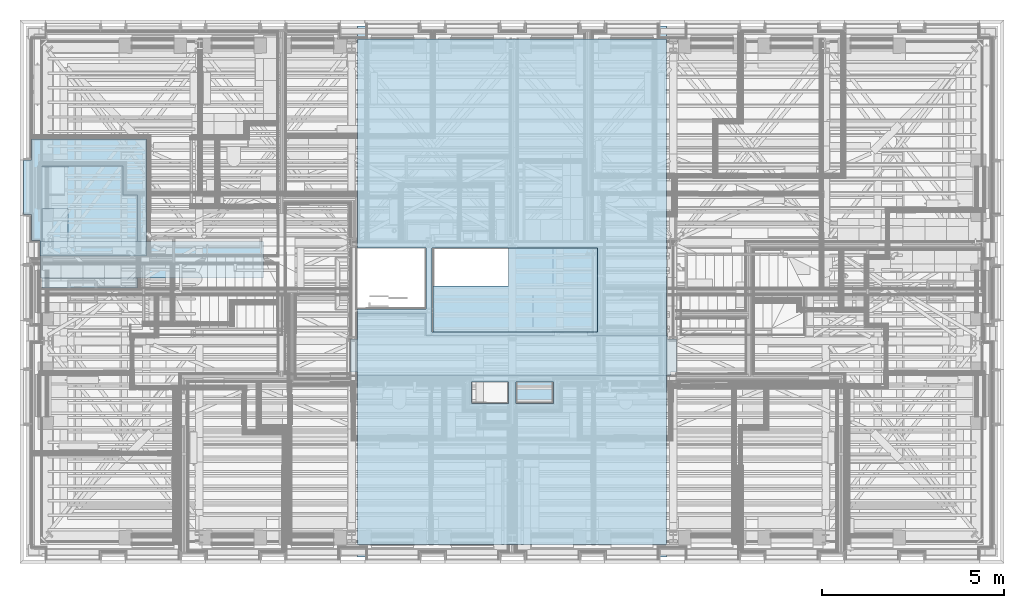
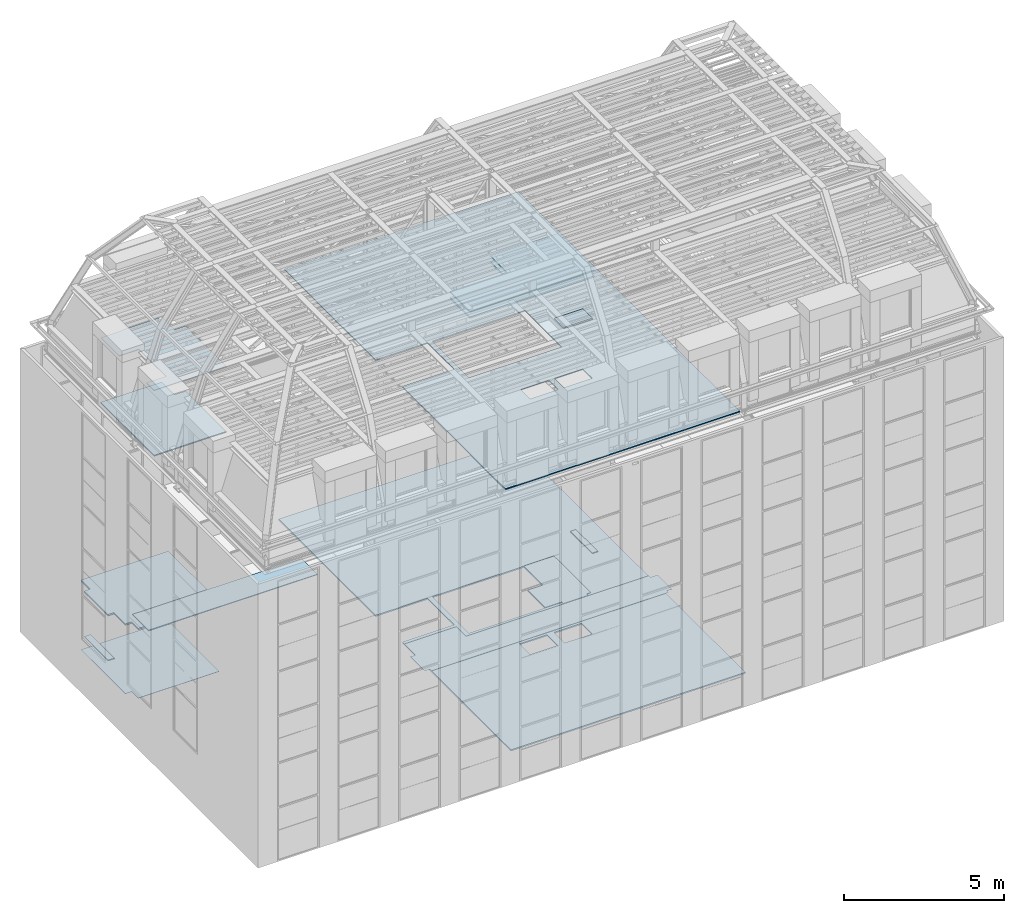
# One storey, part 86 of 183: 23 slabs.
"""IFC2X3 building model written with IfcOpenShell, lengths in metres."""

import ifcopenshell
import ifcopenshell.guid

model = None  # the IFC model being written
_history = None  # IfcOwnerHistory: only IFC2X3 demands one
_inside = {}  # id of a spatial element -> (the spatial element, [elements in it])
_under = {}  # id of a project, library or spatial element -> (it, [spatial elements below it])
_declared = {}  # id of a project -> (the project, [libraries it declares])
_typed = {}  # id of a type object -> (the type object, [elements of that type])
_made_of = {}  # id of a material, layer set ... -> (it, [elements and type objects made of it])


def new_model(schema):
    """Start an empty IFC model of exactly this schema.

    Asked for "IFC4X3", IfcOpenShell would pick the latest addendum, in which some entities
    have other attributes; the version numbers below select the first issue.
    IFC2X3 requires an IfcOwnerHistory on every rooted entity: one is made here for all.
    """
    global model, _history
    if schema == "IFC4X3":
        model = ifcopenshell.file(schema_version=(4, 3, 0, 0))
    else:
        model = ifcopenshell.file(schema=schema)
    _inside.clear()
    _under.clear()
    _declared.clear()
    _typed.clear()
    _made_of.clear()
    _history = None
    if model.schema == "IFC2X3":
        org = make("IfcOrganization", Name="unknown")
        user = make(
            "IfcPersonAndOrganization",
            ThePerson=make("IfcPerson", FamilyName="unknown"),
            TheOrganization=org,
        )
        app = make(
            "IfcApplication",
            ApplicationDeveloper=org,
            Version="unknown",
            ApplicationFullName="unknown",
            ApplicationIdentifier="unknown",
        )
        _history = make(
            "IfcOwnerHistory",
            OwningUser=user,
            OwningApplication=app,
            ChangeAction="ADDED",
            CreationDate=0,
        )
    return model


def make(cls, **values):
    """One entity of the class cls with the attributes given. An attribute that is None is left unset."""
    return model.create_entity(
        cls, **{name: value for name, value in values.items() if value is not None}
    )


def entity(cls, *values):
    """Any entity or typed value of the class cls, its attributes in the order of the schema. None: left unset."""
    e = model.create_entity(cls)
    for i, value in enumerate(values):
        if value is not None:
            e[i] = value
    return e


def rooted(cls, **values):
    """An entity with a GlobalId (a new one), such as an element, a storey or a relation."""
    return make(cls, GlobalId=ifcopenshell.guid.new(), OwnerHistory=_history, **values)


def si_unit(unit_type, name, prefix=None):
    """IfcSIUnit, for example si_unit("LENGTHUNIT", "METRE", prefix="MILLI")."""
    return make("IfcSIUnit", UnitType=unit_type, Prefix=prefix, Name=name)


def converted_unit(unit_type, name, factor, base, dimensions=None, offset=None):
    """IfcConversionBasedUnit, such as the inch: factor (a typed value) times the base unit."""
    return make(
        "IfcConversionBasedUnit"
        if offset is None
        else "IfcConversionBasedUnitWithOffset",
        ConversionOffset=offset,
        Dimensions=None
        if dimensions is None
        else entity("IfcDimensionalExponents", *dimensions),
        UnitType=unit_type,
        Name=name,
        ConversionFactor=make(
            "IfcMeasureWithUnit", ValueComponent=factor, UnitComponent=base
        ),
    )


def derived_unit(unit_type, elements):
    """IfcDerivedUnit: a product of units, each with its exponent."""
    return make(
        "IfcDerivedUnit",
        Elements=[
            make("IfcDerivedUnitElement", Unit=unit, Exponent=power)
            for unit, power in elements
        ],
        UnitType=unit_type,
    )


def money_unit(currency):
    """IfcMonetaryUnit."""
    return make("IfcMonetaryUnit", Currency=currency)


def assignment(units):
    """IfcUnitAssignment: the units of a project."""
    return None if units is None else make("IfcUnitAssignment", Units=units)


def point(xyz):
    """IfcCartesianPoint."""
    return None if xyz is None else make("IfcCartesianPoint", Coordinates=xyz)


def direction(xyz):
    """IfcDirection."""
    return None if xyz is None else make("IfcDirection", DirectionRatios=xyz)


def frame(location, z_axis=None, x_axis=None):
    """IfcAxis2Placement3D, a coordinate frame: its origin and axes. An axis left out is left unset."""
    return make(
        "IfcAxis2Placement3D",
        Location=point(location),
        Axis=direction(z_axis),
        RefDirection=direction(x_axis),
    )


def origin_with_axes():
    """The frame at (0, 0, 0) with the z axis (0, 0, 1) and the x axis (1, 0, 0) written out."""
    return frame((0.0, 0.0, 0.0), z_axis=(0.0, 0.0, 1.0), x_axis=(1.0, 0.0, 0.0))


def place(relative_to, where):
    """IfcLocalPlacement: puts the frame where relative to a parent placement (None: the world)."""
    return make(
        "IfcLocalPlacement", PlacementRelTo=relative_to, RelativePlacement=where
    )


def context(
    kind, dimensions, precision=None, world=None, true_north=None, identifier=None
):
    """IfcGeometricRepresentationContext, for example the 3D "Model" context."""
    return make(
        "IfcGeometricRepresentationContext",
        ContextIdentifier=identifier,
        ContextType=kind,
        CoordinateSpaceDimension=dimensions,
        Precision=precision,
        WorldCoordinateSystem=world,
        TrueNorth=true_north,
    )


def subcontext(parent, identifier, kind, view, scale=None):
    """IfcGeometricRepresentationSubContext, for example "Body" below "Model"."""
    return make(
        "IfcGeometricRepresentationSubContext",
        ContextIdentifier=identifier,
        ContextType=kind,
        ParentContext=parent,
        TargetScale=scale,
        TargetView=view,
    )


def project(units=None, contexts=None):
    """IfcProject with its units and contexts."""
    return rooted(
        "IfcProject",
        Name="project",
        RepresentationContexts=contexts,
        UnitsInContext=assignment(units),
    )


def spatial(cls, under=None, at=None, **own):
    """A site, building, storey or space (cls), placed at a placement, below another one or the project."""
    s = rooted(cls, ObjectPlacement=at, **own)
    if under is not None:
        _under.setdefault(under.id(), (under, []))[1].append(s)
    return s


def faces_of(points, faces, orient=None, outer=None):
    """IfcFace entities. A face is a list of loops; a loop is a list of indices into points, from 0.

    orient and outer hold one flag for each loop. By default every Orientation is true, the
    first loop of a face is its IfcFaceOuterBound and the others are IfcFaceBound.
    """
    made = []
    for i, loops in enumerate(faces):
        bounds = []
        for j, loop in enumerate(loops):
            is_outer = j == 0 if outer is None else outer[i][j]
            bounds.append(
                make(
                    "IfcFaceOuterBound" if is_outer else "IfcFaceBound",
                    Bound=make("IfcPolyLoop", Polygon=[points[k] for k in loop]),
                    Orientation=True if orient is None else orient[i][j],
                )
            )
        made.append(make("IfcFace", Bounds=bounds))
    return made


def faceted_brep(points, faces, orient=None, outer=None, voids=None):
    """IfcFacetedBrep: a solid bounded by flat faces; with voids (closed shells), ...WithVoids."""
    shared = [point(p) for p in points]
    hull = make("IfcClosedShell", CfsFaces=faces_of(shared, faces, orient, outer))
    if voids is None:
        return make("IfcFacetedBrep", Outer=hull)
    return make(
        "IfcFacetedBrepWithVoids",
        Outer=hull,
        Voids=[
            make(cls, CfsFaces=faces_of(shared, fs, o, b)) for cls, fs, o, b in voids
        ],
    )


def shape(context_of_items, identifier, shape_type, items):
    """IfcShapeRepresentation: the items that make up one representation, for example the "Body"."""
    return make(
        "IfcShapeRepresentation",
        ContextOfItems=context_of_items,
        RepresentationIdentifier=identifier,
        RepresentationType=shape_type,
        Items=items,
    )


def material(Name=None, Category=None):
    """IfcMaterial."""
    return make("IfcMaterial", Name=Name, Category=Category)


def made_of(thing, what):
    """Note that an element or type object is made of a material, layer set ...; save() writes the relation."""
    if what is not None:
        _made_of.setdefault(what.id(), (what, []))[1].append(thing)
    return thing


def type_object(cls, material=None, **own):
    """A type object (cls), such as IfcWallType, which elements share."""
    return made_of(rooted(cls, **own), material)


def element(
    cls,
    number,
    at=None,
    inside=None,
    cuts=None,
    type_object=None,
    material=None,
    context=None,
    identifier="Body",
    shape_type=None,
    held_by="IfcProductDefinitionShape",
    body=None,
    shapes=None,
    **own,
):
    """One element of the class cls, such as IfcWall. Its Tag is "e" and its number.

    at: its placement. inside: the storey or other place that contains it. cuts: it is an
    opening in that element (IfcRelVoidsElement). A single representation is given by context,
    identifier, shape_type and body (its items); several are given by shapes. held_by: the class
    of the entity that holds the representations. save() writes the other relations.
    """
    e = rooted(cls, Tag="e%d" % number, ObjectPlacement=at, **own)
    if body is not None:
        shapes = [shape(context, identifier, shape_type, body)]
    if shapes is not None:
        e.Representation = make(held_by, Representations=shapes)
    if inside is not None:
        _inside.setdefault(inside.id(), (inside, []))[1].append(e)
    if cuts is not None:
        rooted(
            "IfcRelVoidsElement", RelatingBuildingElement=cuts, RelatedOpeningElement=e
        )
    if type_object is not None:
        _typed.setdefault(type_object.id(), (type_object, []))[1].append(e)
    return made_of(e, material)


def aggregate(whole, parts):
    """IfcRelAggregates: a whole, such as a stair, and the parts it consists of."""
    return rooted("IfcRelAggregates", RelatingObject=whole, RelatedObjects=parts)


def save(model, path):
    """Write the relations noted so far, then the file.

    IfcRelAggregates (storeys below a building ...), IfcRelContainedInSpatialStructure (elements
    in a storey), IfcRelDefinesByType, IfcRelAssociatesMaterial and IfcRelDeclares: one each for
    every whole, place, type object, material and project.
    """
    for whole, parts in _under.values():
        aggregate(whole, parts)
    for where, things in _inside.values():
        rooted(
            "IfcRelContainedInSpatialStructure",
            RelatedElements=things,
            RelatingStructure=where,
        )
    for kind, things in _typed.values():
        rooted("IfcRelDefinesByType", RelatedObjects=things, RelatingType=kind)
    for what, things in _made_of.values():
        rooted("IfcRelAssociatesMaterial", RelatedObjects=things, RelatingMaterial=what)
    for by, libraries in _declared.values():
        rooted("IfcRelDeclares", RelatingContext=by, RelatedDefinitions=libraries)
    model.write(path)


model = new_model("IFC2X3")

# Units and contexts
model_context = context("Model", 3, precision=1e-05, world=origin_with_axes(), true_north=direction((0.0, 1.0)))
body_context = subcontext(model_context, "Body", "Model", "MODEL_VIEW", scale=1.0)
ifc_project = project(units=[si_unit("LENGTHUNIT", "METRE"), si_unit("AREAUNIT", "SQUARE_METRE"), si_unit("VOLUMEUNIT", "CUBIC_METRE"), si_unit("ABSORBEDDOSEUNIT", "GRAY"), si_unit("AMOUNTOFSUBSTANCEUNIT", "MOLE"), si_unit("DOSEEQUIVALENTUNIT", "SIEVERT"), si_unit("ELECTRICCAPACITANCEUNIT", "FARAD"), si_unit("ELECTRICCHARGEUNIT", "COULOMB"), si_unit("ELECTRICCONDUCTANCEUNIT", "SIEMENS"), si_unit("ELECTRICCURRENTUNIT", "AMPERE"), si_unit("ELECTRICRESISTANCEUNIT", "OHM"), si_unit("ELECTRICVOLTAGEUNIT", "VOLT"), si_unit("ENERGYUNIT", "JOULE"), si_unit("FORCEUNIT", "NEWTON"), si_unit("FREQUENCYUNIT", "HERTZ"), si_unit("ILLUMINANCEUNIT", "LUX"), si_unit("INDUCTANCEUNIT", "HENRY"), si_unit("LUMINOUSFLUXUNIT", "LUMEN"), si_unit("LUMINOUSINTENSITYUNIT", "CANDELA"), si_unit("MAGNETICFLUXDENSITYUNIT", "TESLA"), si_unit("MAGNETICFLUXUNIT", "WEBER"), si_unit("MASSUNIT", "GRAM"), converted_unit("PLANEANGLEUNIT", "degree", entity("IfcReal", 0.0174532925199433), si_unit("PLANEANGLEUNIT", "RADIAN"), dimensions=[0, 0, 0, 0, 0, 0, 0]), si_unit("POWERUNIT", "WATT"), si_unit("PRESSUREUNIT", "PASCAL"), si_unit("RADIOACTIVITYUNIT", "BECQUEREL"), si_unit("SOLIDANGLEUNIT", "STERADIAN"), si_unit("THERMODYNAMICTEMPERATUREUNIT", "KELVIN"), si_unit("TIMEUNIT", "SECOND"), derived_unit("ACCELERATIONUNIT", [(si_unit("LENGTHUNIT", "METRE"), 1), (si_unit("TIMEUNIT", "SECOND"), -2)]), derived_unit("ANGULARVELOCITYUNIT", [(converted_unit("PLANEANGLEUNIT", "degree", entity("IfcReal", 0.0174532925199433), si_unit("PLANEANGLEUNIT", "RADIAN"), dimensions=[0, 0, 0, 0, 0, 0, 0]), 1), (si_unit("TIMEUNIT", "SECOND"), -1)]), derived_unit("CURVATUREUNIT", [(converted_unit("PLANEANGLEUNIT", "degree", entity("IfcReal", 0.0174532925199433), si_unit("PLANEANGLEUNIT", "RADIAN"), dimensions=[0, 0, 0, 0, 0, 0, 0]), 1), (si_unit("LENGTHUNIT", "METRE"), -1)]), derived_unit("DYNAMICVISCOSITYUNIT", [(si_unit("PRESSUREUNIT", "PASCAL"), 1), (si_unit("TIMEUNIT", "SECOND"), 1)]), derived_unit("HEATFLUXDENSITYUNIT", [(si_unit("POWERUNIT", "WATT"), 1), (si_unit("LENGTHUNIT", "METRE"), -2)]), derived_unit("HEATINGVALUEUNIT", [(si_unit("ENERGYUNIT", "JOULE"), 1), (si_unit("MASSUNIT", "GRAM"), -1)]), derived_unit("INTEGERCOUNTRATEUNIT", [(si_unit("TIMEUNIT", "SECOND"), -1)]), derived_unit("IONCONCENTRATIONUNIT", [(si_unit("MASSUNIT", "GRAM"), 1), (si_unit("VOLUMEUNIT", "CUBIC_METRE"), -1)]), derived_unit("ISOTHERMALMOISTURECAPACITYUNIT", [(si_unit("VOLUMEUNIT", "CUBIC_METRE"), 1), (si_unit("MASSUNIT", "GRAM"), -1)]), derived_unit("KINEMATICVISCOSITYUNIT", [(si_unit("AREAUNIT", "SQUARE_METRE"), 1), (si_unit("TIMEUNIT", "SECOND"), -1)]), derived_unit("LINEARFORCEUNIT", [(si_unit("FORCEUNIT", "NEWTON"), 1), (si_unit("LENGTHUNIT", "METRE"), -1)]), derived_unit("LINEARMOMENTUNIT", [(si_unit("FORCEUNIT", "NEWTON"), 1), (si_unit("LENGTHUNIT", "METRE"), -1)]), derived_unit("LINEARSTIFFNESSUNIT", [(si_unit("FORCEUNIT", "NEWTON"), 1), (si_unit("LENGTHUNIT", "METRE"), -1)]), derived_unit("LINEARVELOCITYUNIT", [(si_unit("LENGTHUNIT", "METRE"), 1), (si_unit("TIMEUNIT", "SECOND"), -1)]), derived_unit("LUMINOUSINTENSITYDISTRIBUTIONUNIT", [(si_unit("LUMINOUSINTENSITYUNIT", "CANDELA"), 1), (si_unit("LUMINOUSFLUXUNIT", "LUMEN"), -1)]), derived_unit("MASSDENSITYUNIT", [(si_unit("MASSUNIT", "GRAM"), 1), (si_unit("VOLUMEUNIT", "CUBIC_METRE"), -1)]), derived_unit("MASSFLOWRATEUNIT", [(si_unit("MASSUNIT", "GRAM"), 1), (si_unit("TIMEUNIT", "SECOND"), -1)]), derived_unit("MASSPERLENGTHUNIT", [(si_unit("MASSUNIT", "GRAM"), 1), (si_unit("LENGTHUNIT", "METRE"), -1)]), derived_unit("MODULUSOFELASTICITYUNIT", [(si_unit("FORCEUNIT", "NEWTON"), 1), (si_unit("AREAUNIT", "SQUARE_METRE"), -1)]), derived_unit("MODULUSOFLINEARSUBGRADEREACTIONUNIT", [(si_unit("FORCEUNIT", "NEWTON"), 1), (si_unit("LENGTHUNIT", "METRE"), -2)]), derived_unit("MODULUSOFROTATIONALSUBGRADEREACTIONUNIT", [(si_unit("FORCEUNIT", "NEWTON"), 1), (si_unit("LENGTHUNIT", "METRE"), 1)]), derived_unit("MODULUSOFSUBGRADEREACTIONUNIT", [(si_unit("FORCEUNIT", "NEWTON"), 1), (si_unit("VOLUMEUNIT", "CUBIC_METRE"), -1)]), derived_unit("MOISTUREDIFFUSIVITYUNIT", [(si_unit("VOLUMEUNIT", "CUBIC_METRE"), 1), (si_unit("TIMEUNIT", "SECOND"), -1)]), derived_unit("MOLECULARWEIGHTUNIT", [(si_unit("MASSUNIT", "GRAM"), 1), (si_unit("AMOUNTOFSUBSTANCEUNIT", "MOLE"), -1)]), derived_unit("PLANARFORCEUNIT", [(si_unit("FORCEUNIT", "NEWTON"), 1), (si_unit("LENGTHUNIT", "METRE"), -2)]), derived_unit("ROTATIONALFREQUENCYUNIT", [(si_unit("TIMEUNIT", "SECOND"), -1)]), derived_unit("ROTATIONALMASSUNIT", [(si_unit("MASSUNIT", "GRAM"), 1), (si_unit("LENGTHUNIT", "METRE"), 2)]), derived_unit("ROTATIONALSTIFFNESSUNIT", [(si_unit("FORCEUNIT", "NEWTON"), 1), (si_unit("LENGTHUNIT", "METRE"), 1), (converted_unit("PLANEANGLEUNIT", "degree", entity("IfcReal", 0.0174532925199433), si_unit("PLANEANGLEUNIT", "RADIAN"), dimensions=[0, 0, 0, 0, 0, 0, 0]), -1)]), derived_unit("SECTIONAREAINTEGRALUNIT", [(si_unit("LENGTHUNIT", "METRE"), 5)]), derived_unit("SECTIONMODULUSUNIT", [(si_unit("LENGTHUNIT", "METRE"), 3)]), derived_unit("SHEARMODULUSUNIT", [(si_unit("FORCEUNIT", "NEWTON"), 1), (si_unit("AREAUNIT", "SQUARE_METRE"), -1)]), derived_unit("SOUNDPOWERUNIT", [(si_unit("ENERGYUNIT", "JOULE"), 1), (si_unit("TIMEUNIT", "SECOND"), -1)]), derived_unit("SPECIFICHEATCAPACITYUNIT", [(si_unit("FORCEUNIT", "NEWTON"), 1), (si_unit("MASSUNIT", "GRAM"), -1), (si_unit("THERMODYNAMICTEMPERATUREUNIT", "KELVIN"), -1)]), derived_unit("TEMPERATUREGRADIENTUNIT", [(si_unit("THERMODYNAMICTEMPERATUREUNIT", "KELVIN"), 1), (si_unit("LENGTHUNIT", "METRE"), -1)]), derived_unit("THERMALADMITTANCEUNIT", [(si_unit("POWERUNIT", "WATT"), 1), (si_unit("AREAUNIT", "SQUARE_METRE"), -1), (si_unit("THERMODYNAMICTEMPERATUREUNIT", "KELVIN"), -1)]), derived_unit("THERMALCONDUCTANCEUNIT", [(si_unit("POWERUNIT", "WATT"), 1), (si_unit("LENGTHUNIT", "METRE"), -1), (si_unit("THERMODYNAMICTEMPERATUREUNIT", "KELVIN"), -1)]), derived_unit("THERMALEXPANSIONCOEFFICIENTUNIT", [(si_unit("THERMODYNAMICTEMPERATUREUNIT", "KELVIN"), -1)]), derived_unit("THERMALRESISTANCEUNIT", [(si_unit("AREAUNIT", "SQUARE_METRE"), 1), (si_unit("POWERUNIT", "WATT"), -1)]), derived_unit("THERMALTRANSMITTANCEUNIT", [(si_unit("POWERUNIT", "WATT"), 1), (si_unit("AREAUNIT", "SQUARE_METRE"), -1), (si_unit("THERMODYNAMICTEMPERATUREUNIT", "KELVIN"), -1)]), derived_unit("TORQUEUNIT", [(si_unit("FORCEUNIT", "NEWTON"), 1), (si_unit("LENGTHUNIT", "METRE"), 1)]), derived_unit("VAPORPERMEABILITYUNIT", [(si_unit("MASSUNIT", "GRAM"), 1), (si_unit("TIMEUNIT", "SECOND"), -1)]), derived_unit("VOLUMETRICFLOWRATEUNIT", [(si_unit("VOLUMEUNIT", "CUBIC_METRE"), 1), (si_unit("TIMEUNIT", "SECOND"), -1)]), derived_unit("WARPINGCONSTANTUNIT", [(si_unit("LENGTHUNIT", "METRE"), 6)]), derived_unit("WARPINGMOMENTUNIT", [(si_unit("FORCEUNIT", "NEWTON"), 1), (si_unit("LENGTHUNIT", "METRE"), 2)]), money_unit("GBP")], contexts=[model_context])

# Site, building, storey
site_placement = place(None, origin_with_axes())
site = spatial("IfcSite", under=ifc_project, at=site_placement, Name="Site", CompositionType="ELEMENT")
building_placement = place(site_placement, origin_with_axes())
building = spatial("IfcBuilding", under=site, at=building_placement, Name="Building01", CompositionType="ELEMENT")
storey_placement = place(building_placement, frame((0.0, 0.0, 5.15), z_axis=(0.0, 0.0, 1.0), x_axis=(1.0, 0.0, 0.0)))
storey = spatial("IfcBuildingStorey", under=building, at=storey_placement, Name="1F", CompositionType="ELEMENT", Elevation=5.15)

# Slabs
ifc_material_1 = material(Name="A_BSUK_InternalFinishes_FloorScreed")
slab_type_1 = type_object("IfcSlabType", Name="A-FloorsSlabs A_BSUK_Slabs", PredefinedType="FLOOR")
placement = place(storey_placement, frame((0.0, 0.0, -5.15), z_axis=(0.0, 0.0, 1.0), x_axis=(1.0, 0.0, 0.0)))
element("IfcSlab", 1, at=placement, inside=storey, type_object=slab_type_1, material=ifc_material_1, Name="A-FloorsSlabs A_BSUK_Slabs", ObjectType="CompoundSlabLeaf", context=body_context, shape_type="Brep", body=[
    faceted_brep([(11.13, 8.65, 5.15), (11.13, 6.98, 5.15), (9.25, 6.98, 5.15), (9.25, 0.17, 5.15), (17.73, 0.17, 5.15), (17.73, 14.73, 5.15), (9.25, 14.73, 5.15), (9.25, 8.65, 5.15), (13.375, 5.05385, 5.15), (13.375, 4.389428, 5.15), (12.375, 4.389428, 5.15), (12.375, 5.05385, 5.15), (14.625, 5.05385, 5.15), (14.625, 4.389428, 5.15), (13.625, 4.389428, 5.15), (13.625, 5.05385, 5.15), (14.059316, 6.35, 5.15), (11.3, 6.35, 5.15), (11.3, 8.65, 5.15), (14.609584, 8.65, 5.15), (14.609584, 7.454282, 5.15), (14.059316, 7.454282, 5.15), (11.13, 8.65, 5.1), (9.25, 8.65, 5.1), (9.25, 14.73, 5.1), (17.73, 14.73, 5.1), (17.73, 0.17, 5.1), (9.25, 0.17, 5.1), (9.25, 6.98, 5.1), (11.13, 6.98, 5.1), (13.375, 5.05385, 5.1), (12.375, 5.05385, 5.1), (12.375, 4.389428, 5.1), (13.375, 4.389428, 5.1), (14.059316, 6.35, 5.1), (14.059316, 7.454282, 5.1), (14.609584, 7.454282, 5.1), (14.609584, 8.65, 5.1), (11.3, 8.65, 5.1), (11.3, 6.35, 5.1), (14.625, 5.05385, 5.1), (13.625, 5.05385, 5.1), (13.625, 4.389428, 5.1), (14.625, 4.389428, 5.1)], [[[0, 1, 2, 3, 4, 5, 6, 7], [8, 9, 10, 11], [12, 13, 14, 15], [16, 17, 18, 19, 20, 21]], [[22, 23, 24, 25, 26, 27, 28, 29], [30, 31, 32, 33], [34, 35, 36, 37, 38, 39], [40, 41, 42, 43]], [[23, 7, 6, 24]], [[2, 28, 27, 3]], [[35, 21, 20, 36]], [[24, 6, 5, 25]], [[26, 4, 3, 27]], [[25, 5, 4, 26]], [[15, 41, 40, 12]], [[12, 40, 43, 13]], [[13, 43, 42, 14]], [[14, 42, 41, 15]], [[11, 31, 30, 8]], [[8, 30, 33, 9]], [[9, 33, 32, 10]], [[10, 32, 31, 11]], [[18, 38, 37, 19]], [[19, 37, 36, 20]], [[17, 39, 38, 18]], [[16, 34, 39, 17]], [[21, 35, 34, 16]], [[0, 22, 29, 1]], [[7, 23, 22, 0]], [[1, 29, 28, 2]]]),
])
ifc_material_2 = material(Name="A_BSUK_Ceramic_WallTiles")
element("IfcSlab", 2, at=placement, inside=storey, type_object=slab_type_1, material=ifc_material_2, Name="A-FloorsSlabs A_BSUK_Slabs", ObjectType="CompoundSlabLeaf", context=body_context, shape_type="Brep", body=[
    faceted_brep([(16.03, 6.475, 6.525), (16.03, 6.475, 6.55), (15.83, 6.475, 6.55), (15.83, 6.475, 6.525), (16.03, 7.849998, 6.525), (16.03, 7.849998, 6.55), (15.830003, 7.85, 6.525), (15.830003, 7.85, 6.55)], [[[0, 1, 2, 3]], [[4, 5, 1, 0]], [[6, 7, 5, 4]], [[3, 2, 7, 6]], [[1, 5, 7, 2]], [[3, 6, 4, 0]]]),
])
ifc_material_3 = material(Name="A_BSUK_ExpandedPolystyreneBoards")
element("IfcSlab", 3, at=placement, inside=storey, type_object=slab_type_1, material=ifc_material_3, Name="A-FloorsSlabs A_BSUK_Slabs", ObjectType="CompoundSlabLeaf", context=body_context, shape_type="Brep", body=[
    faceted_brep([(9.25, 6.15, 5.15), (9.25, 6.15, 5.153), (9.25, 6.85, 5.153), (9.25, 6.85, 5.15), (9.06, 6.15, 5.15), (9.06, 6.15, 5.153), (9.06, 5.25, 5.15), (9.06, 5.25, 5.153), (9.25, 5.25, 5.15), (9.25, 5.25, 5.153), (9.25, 5.15, 5.15), (9.25, 5.15, 5.153), (17.83, 5.15, 5.15), (17.83, 5.15, 5.153), (17.83, 5.25, 5.15), (17.83, 5.25, 5.153), (18.0, 5.25, 5.15), (18.0, 5.25, 5.153), (18.0, 6.15, 5.15), (18.0, 6.15, 5.153), (17.75, 6.15, 5.15), (17.75, 6.15, 5.153), (17.75, 6.25, 5.15), (17.75, 6.25, 5.153), (15.558, 6.25, 5.15), (15.558, 6.25, 5.153), (15.558, 6.35, 5.15), (15.558, 6.35, 5.153), (15.6, 6.35, 5.15), (15.6, 6.35, 5.153), (15.7, 6.35, 5.15), (15.7, 6.35, 5.153), (15.7, 8.65, 5.15), (15.7, 8.65, 5.153), (14.609584, 8.65, 5.15), (14.609584, 8.65, 5.153), (14.609584, 7.454282, 5.15), (14.609584, 7.454282, 5.153), (14.059316, 7.454282, 5.15), (14.059316, 7.454282, 5.153), (14.059316, 6.35, 5.15), (14.059316, 6.35, 5.153), (14.658, 6.35, 5.15), (14.658, 6.35, 5.153), (14.658, 6.25, 5.15), (14.658, 6.25, 5.153), (11.13, 6.25, 5.15), (11.13, 6.25, 5.153), (11.13, 6.85, 5.15), (11.13, 6.85, 5.153)], [[[0, 1, 2, 3]], [[4, 5, 1, 0]], [[6, 7, 5, 4]], [[8, 9, 7, 6]], [[10, 11, 9, 8]], [[12, 13, 11, 10]], [[14, 15, 13, 12]], [[16, 17, 15, 14]], [[18, 19, 17, 16]], [[20, 21, 19, 18]], [[22, 23, 21, 20]], [[24, 25, 23, 22]], [[26, 27, 25, 24]], [[28, 29, 27, 26]], [[30, 31, 29, 28]], [[32, 33, 31, 30]], [[34, 35, 33, 32]], [[36, 37, 35, 34]], [[38, 39, 37, 36]], [[40, 41, 39, 38]], [[42, 43, 41, 40]], [[44, 45, 43, 42]], [[46, 47, 45, 44]], [[48, 49, 47, 46]], [[3, 2, 49, 48]], [[1, 5, 7, 9, 11, 13, 15, 17, 19, 21, 23, 25, 27, 29, 31, 33, 35, 37, 39, 41, 43, 45, 47, 49, 2]], [[3, 48, 46, 44, 42, 40, 38, 36, 34, 32, 30, 28, 26, 24, 22, 20, 18, 16, 14, 12, 10, 8, 6, 4, 0]]]),
])
ifc_material_4 = material(Name="A_BSUK_Carpet-Pile")
element("IfcSlab", 4, at=placement, inside=storey, type_object=slab_type_1, material=ifc_material_4, Name="A-FloorsSlabs A_BSUK_Slabs", ObjectType="CompoundSlabLeaf", context=body_context, shape_type="Brep", body=[
    faceted_brep([(0.318, 11.63067, 5.153), (0.318, 11.63067, 5.165), (3.474669, 11.63067, 5.165), (3.474669, 11.63067, 5.153), (0.318, 11.055, 5.153), (0.318, 11.055, 5.165), (0.318, 9.56218, 5.153), (0.318, 9.56218, 5.165), (0.318, 8.848, 5.153), (0.318, 8.848, 5.165), (0.548, 8.848, 5.153), (0.548, 8.848, 5.165), (0.548, 8.43567, 5.153), (0.548, 8.43567, 5.165), (3.474669, 8.43567, 5.153), (3.474669, 8.43567, 5.165)], [[[0, 1, 2, 3]], [[4, 5, 1, 0]], [[6, 7, 5, 4]], [[8, 9, 7, 6]], [[10, 11, 9, 8]], [[12, 13, 11, 10]], [[14, 15, 13, 12]], [[3, 2, 15, 14]], [[1, 5, 7, 9, 11, 13, 15, 2]], [[3, 14, 12, 10, 8, 6, 4, 0]]]),
])
element("IfcSlab", 5, at=placement, inside=storey, type_object=slab_type_1, material=ifc_material_4, Name="A-FloorsSlabs A_BSUK_Slabs", ObjectType="CompoundSlabLeaf", context=body_context, shape_type="Brep", body=[
    faceted_brep([(14.609584, 7.454282, 5.153), (14.609584, 7.454282, 5.165), (14.609584, 8.65, 5.165), (14.609584, 8.65, 5.153), (14.059316, 7.454282, 5.153), (14.059316, 7.454282, 5.165), (14.059316, 6.35, 5.153), (14.059316, 6.35, 5.165), (14.658, 6.35, 5.153), (14.658, 6.35, 5.165), (14.658, 6.25, 5.153), (14.658, 6.25, 5.165), (15.558, 6.25, 5.153), (15.558, 6.25, 5.165), (15.558, 6.35, 5.153), (15.558, 6.35, 5.165), (15.7, 6.35, 5.153), (15.7, 6.35, 5.165), (15.7, 8.65, 5.153), (15.7, 8.65, 5.165)], [[[0, 1, 2, 3]], [[4, 5, 1, 0]], [[6, 7, 5, 4]], [[8, 9, 7, 6]], [[10, 11, 9, 8]], [[12, 13, 11, 10]], [[14, 15, 13, 12]], [[16, 17, 15, 14]], [[18, 19, 17, 16]], [[3, 2, 19, 18]], [[1, 5, 7, 9, 11, 13, 15, 17, 19, 2]], [[3, 18, 16, 14, 12, 10, 8, 6, 4, 0]]]),
])
ifc_material_5 = material(Name="A_BSUK_CeilingSoffitFinishes_Suspended")
element("IfcSlab", 6, at=placement, inside=storey, type_object=slab_type_1, material=ifc_material_5, Name="A-FloorsSlabs A_BSUK_Slabs", ObjectType="CompoundSlabLeaf", context=body_context, shape_type="Brep", body=[
    faceted_brep([(0.318, 11.63067, 7.765), (0.318, 11.63067, 7.78), (3.474669, 11.63067, 7.78), (3.474669, 11.63067, 7.765), (0.318, 11.055, 7.765), (0.318, 11.055, 7.78), (0.1, 11.055, 7.765), (0.1, 11.055, 7.78), (0.1, 9.56218, 7.765), (0.1, 9.56218, 7.78), (0.318, 9.56218, 7.765), (0.318, 9.56218, 7.78), (0.318, 8.848, 7.765), (0.318, 8.848, 7.78), (0.548, 8.848, 7.765), (0.548, 8.848, 7.78), (0.548, 8.43567, 7.765), (0.548, 8.43567, 7.78), (3.474669, 8.43567, 7.765), (3.474669, 8.43567, 7.78)], [[[0, 1, 2, 3]], [[4, 5, 1, 0]], [[6, 7, 5, 4]], [[8, 9, 7, 6]], [[10, 11, 9, 8]], [[12, 13, 11, 10]], [[14, 15, 13, 12]], [[16, 17, 15, 14]], [[18, 19, 17, 16]], [[3, 2, 19, 18]], [[1, 5, 7, 9, 11, 13, 15, 17, 19, 2]], [[3, 18, 16, 14, 12, 10, 8, 6, 4, 0]]]),
])
ifc_material_6 = material(Name="A_BSUK_Timber_Miscellaneous")
element("IfcSlab", 7, at=placement, inside=storey, type_object=slab_type_1, material=ifc_material_6, Name="A-FloorsSlabs A_BSUK_Slabs", ObjectType="CompoundSlabLeaf", context=body_context, shape_type="Brep", body=[
    faceted_brep([(0.333, 9.56218, 6.065), (0.333, 9.56218, 6.09), (0.099998, 9.56218, 6.09), (0.099998, 9.56218, 6.065), (0.333, 11.055, 6.065), (0.333, 11.055, 6.09), (0.1, 11.055, 6.065), (0.1, 11.055, 6.09)], [[[0, 1, 2, 3]], [[4, 5, 1, 0]], [[6, 7, 5, 4]], [[3, 2, 7, 6]], [[1, 5, 7, 2]], [[3, 6, 4, 0]]]),
])
element("IfcSlab", 8, at=placement, inside=storey, type_object=slab_type_1, material=ifc_material_5, Name="A-FloorsSlabs A_BSUK_Slabs", ObjectType="CompoundSlabLeaf", context=body_context, shape_type="Brep", body=[
    faceted_brep([(0.563, 7.82317, 8.115), (0.563, 7.82317, 8.13), (0.563, 8.82317, 8.13), (0.563, 8.82317, 8.115), (6.677169, 7.82317, 8.115), (6.677169, 7.82317, 8.13), (6.677169, 8.82317, 8.115), (6.677169, 8.82317, 8.13)], [[[0, 1, 2, 3]], [[4, 5, 1, 0]], [[6, 7, 5, 4]], [[3, 2, 7, 6]], [[1, 5, 7, 2]], [[3, 6, 4, 0]]]),
])
element("IfcSlab", 9, at=placement, inside=storey, type_object=slab_type_1, material=ifc_material_5, Name="A-FloorsSlabs A_BSUK_Slabs", ObjectType="CompoundSlabLeaf", context=body_context, shape_type="Brep", body=[
    faceted_brep([(0.563, 7.82317, 8.1), (0.563, 7.82317, 8.115), (0.563, 8.82317, 8.115), (0.563, 8.82317, 8.1), (6.677169, 7.82317, 8.1), (6.677169, 7.82317, 8.115), (6.677169, 8.82317, 8.1), (6.677169, 8.82317, 8.115)], [[[0, 1, 2, 3]], [[4, 5, 1, 0]], [[6, 7, 5, 4]], [[3, 2, 7, 6]], [[1, 5, 7, 2]], [[3, 6, 4, 0]]]),
])
element("IfcSlab", 10, at=placement, inside=storey, type_object=slab_type_1, material=ifc_material_5, Name="A-FloorsSlabs A_BSUK_Slabs", ObjectType="CompoundSlabLeaf", context=body_context, shape_type="Brep", body=[
    faceted_brep([(1.336179, 10.899939, 17.423), (1.336179, 10.899939, 17.438), (2.82, 10.899939, 17.438), (2.82, 10.899939, 17.423), (1.336179, 10.874915, 17.423), (1.336179, 10.874915, 17.438), (0.599939, 10.874915, 17.423), (0.599939, 10.874915, 17.438), (0.599939, 9.724964, 17.423), (0.599939, 9.724964, 17.438), (1.312402, 9.724964, 17.423), (1.312402, 9.724964, 17.438), (1.312402, 8.024915, 17.423), (1.312402, 8.024915, 17.438), (0.599939, 8.024915, 17.423), (0.599939, 8.024915, 17.438), (0.599939, 7.550061, 17.423), (0.599939, 7.550061, 17.438), (3.22, 7.550061, 17.423), (3.22, 7.550061, 17.438), (3.22, 10.099939, 17.423), (3.22, 10.099939, 17.438), (2.82, 10.099939, 17.423), (2.82, 10.099939, 17.438)], [[[0, 1, 2, 3]], [[4, 5, 1, 0]], [[6, 7, 5, 4]], [[8, 9, 7, 6]], [[10, 11, 9, 8]], [[12, 13, 11, 10]], [[14, 15, 13, 12]], [[16, 17, 15, 14]], [[18, 19, 17, 16]], [[20, 21, 19, 18]], [[22, 23, 21, 20]], [[3, 2, 23, 22]], [[1, 5, 7, 9, 11, 13, 15, 17, 19, 21, 23, 2]], [[3, 22, 20, 18, 16, 14, 12, 10, 8, 6, 4, 0]]]),
])
element("IfcSlab", 11, at=placement, inside=storey, type_object=slab_type_1, material=ifc_material_1, Name="A-FloorsSlabs A_BSUK_Slabs", ObjectType="CompoundSlabLeaf", context=body_context, shape_type="Brep", body=[
    faceted_brep([(11.13, 8.65, 14.89), (11.13, 6.98, 14.89), (9.25, 6.98, 14.89), (9.25, 0.52, 14.89), (17.73, 0.52, 14.89), (17.73, 14.38, 14.89), (9.25, 14.38, 14.89), (9.25, 8.65, 14.89), (14.625, 4.973943, 14.89), (14.625, 4.389428, 14.89), (13.6, 4.389428, 14.89), (13.6, 4.973943, 14.89), (13.4, 4.98, 14.89), (13.4, 4.389428, 14.89), (12.375, 4.389428, 14.89), (12.375, 4.98, 14.89), (14.653574, 8.65, 14.89), (14.653574, 6.35, 14.89), (11.3, 6.35, 14.89), (11.3, 8.65, 14.89), (11.13, 8.65, 14.88), (9.25, 8.65, 14.88), (9.25, 14.38, 14.88), (17.73, 14.38, 14.88), (17.73, 0.52, 14.88), (9.25, 0.52, 14.88), (9.25, 6.98, 14.88), (11.13, 6.98, 14.88), (13.4, 4.98, 14.88), (12.375, 4.98, 14.88), (12.375, 4.389428, 14.88), (13.4, 4.389428, 14.88), (14.653574, 8.65, 14.88), (11.3, 8.65, 14.88), (11.3, 6.35, 14.88), (14.653574, 6.35, 14.88), (14.625, 4.973943, 14.88), (13.6, 4.973943, 14.88), (13.6, 4.389428, 14.88), (14.625, 4.389428, 14.88)], [[[0, 1, 2, 3, 4, 5, 6, 7], [8, 9, 10, 11], [12, 13, 14, 15], [16, 17, 18, 19]], [[20, 21, 22, 23, 24, 25, 26, 27], [28, 29, 30, 31], [32, 33, 34, 35], [36, 37, 38, 39]], [[21, 7, 6, 22]], [[2, 26, 25, 3]], [[22, 6, 5, 23]], [[24, 4, 3, 25]], [[23, 5, 4, 24]], [[11, 37, 36, 8]], [[8, 36, 39, 9]], [[9, 39, 38, 10]], [[10, 38, 37, 11]], [[15, 29, 28, 12]], [[12, 28, 31, 13]], [[13, 31, 30, 14]], [[14, 30, 29, 15]], [[19, 33, 32, 16]], [[16, 32, 35, 17]], [[17, 35, 34, 18]], [[18, 34, 33, 19]], [[0, 20, 27, 1]], [[7, 21, 20, 0]], [[1, 27, 26, 2]]]),
])
element("IfcSlab", 12, at=placement, inside=storey, type_object=slab_type_1, material=ifc_material_3, Name="A-FloorsSlabs A_BSUK_Slabs", ObjectType="CompoundSlabLeaf", context=body_context, shape_type="Brep", body=[
    faceted_brep([(0.6038, 10.899915, 14.92), (0.6038, 10.899915, 14.952), (2.82, 10.899915, 14.952), (2.82, 10.899915, 14.92), (0.6038, 10.874915, 14.92), (0.6038, 10.874915, 14.952), (0.6038, 9.724964, 14.92), (0.6038, 9.724964, 14.952), (0.6038, 8.024915, 14.92), (0.6038, 8.024915, 14.952), (0.6038, 7.550061, 14.92), (0.6038, 7.550061, 14.952), (3.22, 7.550026, 14.92), (3.22, 7.550026, 14.952), (3.22, 10.099939, 14.92), (3.22, 10.099939, 14.952), (2.82, 10.099939, 14.92), (2.82, 10.099939, 14.952)], [[[0, 1, 2, 3]], [[4, 5, 1, 0]], [[6, 7, 5, 4]], [[8, 9, 7, 6]], [[10, 11, 9, 8]], [[12, 13, 11, 10]], [[14, 15, 13, 12]], [[16, 17, 15, 14]], [[3, 2, 17, 16]], [[1, 5, 7, 9, 11, 13, 15, 17, 2]], [[3, 16, 14, 12, 10, 8, 6, 4, 0]]]),
])
element("IfcSlab", 13, at=placement, inside=storey, type_object=slab_type_1, material=ifc_material_5, Name="A-FloorsSlabs A_BSUK_Slabs", ObjectType="CompoundSlabLeaf", context=body_context, shape_type="Brep", body=[
    faceted_brep([(1.336179, 10.899939, 17.438), (1.336179, 10.899939, 17.453), (2.82, 10.899939, 17.453), (2.82, 10.899939, 17.438), (1.336179, 10.874915, 17.438), (1.336179, 10.874915, 17.453), (0.599939, 10.874915, 17.438), (0.599939, 10.874915, 17.453), (0.599939, 9.724964, 17.438), (0.599939, 9.724964, 17.453), (1.312402, 9.724964, 17.438), (1.312402, 9.724964, 17.453), (1.312402, 8.024915, 17.438), (1.312402, 8.024915, 17.453), (0.599939, 8.024915, 17.438), (0.599939, 8.024915, 17.453), (0.599939, 7.550061, 17.438), (0.599939, 7.550061, 17.453), (3.22, 7.550061, 17.438), (3.22, 7.550061, 17.453), (3.22, 10.099939, 17.438), (3.22, 10.099939, 17.453), (2.82, 10.099939, 17.438), (2.82, 10.099939, 17.453)], [[[0, 1, 2, 3]], [[4, 5, 1, 0]], [[6, 7, 5, 4]], [[8, 9, 7, 6]], [[10, 11, 9, 8]], [[12, 13, 11, 10]], [[14, 15, 13, 12]], [[16, 17, 15, 14]], [[18, 19, 17, 16]], [[20, 21, 19, 18]], [[22, 23, 21, 20]], [[3, 2, 23, 22]], [[1, 5, 7, 9, 11, 13, 15, 17, 19, 21, 23, 2]], [[3, 22, 20, 18, 16, 14, 12, 10, 8, 6, 4, 0]]]),
])
element("IfcSlab", 14, at=placement, inside=storey, type_object=slab_type_1, material=ifc_material_5, Name="A-FloorsSlabs A_BSUK_Slabs", ObjectType="CompoundSlabLeaf", context=body_context, shape_type="Brep", body=[
    faceted_brep([(11.33, 6.35, 17.438), (11.33, 6.35, 17.453), (11.33, 7.599939, 17.453), (11.33, 7.599939, 17.438), (15.83844, 6.35, 17.438), (15.83844, 6.35, 17.453), (15.83844, 8.65, 17.438), (15.83844, 8.65, 17.453), (13.4, 8.65, 17.438), (13.4, 8.65, 17.453), (13.4, 7.599939, 17.438), (13.4, 7.599939, 17.453)], [[[0, 1, 2, 3]], [[4, 5, 1, 0]], [[6, 7, 5, 4]], [[8, 9, 7, 6]], [[10, 11, 9, 8]], [[3, 2, 11, 10]], [[1, 5, 7, 9, 11, 2]], [[3, 10, 8, 6, 4, 0]]]),
])
element("IfcSlab", 15, at=placement, inside=storey, type_object=slab_type_1, material=ifc_material_5, Name="A-FloorsSlabs A_BSUK_Slabs", ObjectType="CompoundSlabLeaf", context=body_context, shape_type="Brep", body=[
    faceted_brep([(11.33, 6.35, 17.408), (11.33, 6.35, 17.423), (11.33, 7.599939, 17.423), (11.33, 7.599939, 17.408), (15.83844, 6.35, 17.408), (15.83844, 6.35, 17.423), (15.83844, 8.65, 17.408), (15.83844, 8.65, 17.423), (13.4, 8.65, 17.408), (13.4, 8.65, 17.423), (13.4, 7.599939, 17.408), (13.4, 7.599939, 17.423)], [[[0, 1, 2, 3]], [[4, 5, 1, 0]], [[6, 7, 5, 4]], [[8, 9, 7, 6]], [[10, 11, 9, 8]], [[3, 2, 11, 10]], [[1, 5, 7, 9, 11, 2]], [[3, 10, 8, 6, 4, 0]]]),
])
element("IfcSlab", 16, at=placement, inside=storey, type_object=slab_type_1, material=ifc_material_5, Name="A-FloorsSlabs A_BSUK_Slabs", ObjectType="CompoundSlabLeaf", context=body_context, shape_type="Brep", body=[
    faceted_brep([(11.33, 6.35, 17.423), (11.33, 6.35, 17.438), (11.33, 7.599939, 17.438), (11.33, 7.599939, 17.423), (15.83844, 6.35, 17.423), (15.83844, 6.35, 17.438), (15.83844, 8.65, 17.423), (15.83844, 8.65, 17.438), (13.4, 8.65, 17.423), (13.4, 8.65, 17.438), (13.4, 7.599939, 17.423), (13.4, 7.599939, 17.438)], [[[0, 1, 2, 3]], [[4, 5, 1, 0]], [[6, 7, 5, 4]], [[8, 9, 7, 6]], [[10, 11, 9, 8]], [[3, 2, 11, 10]], [[1, 5, 7, 9, 11, 2]], [[3, 10, 8, 6, 4, 0]]]),
])
element("IfcSlab", 17, at=placement, inside=storey, type_object=slab_type_1, material=ifc_material_5, Name="A-FloorsSlabs A_BSUK_Slabs", ObjectType="CompoundSlabLeaf", context=body_context, shape_type="Brep", body=[
    faceted_brep([(11.33, 6.35, 17.158), (11.33, 6.35, 17.173), (11.33, 7.599939, 17.173), (11.33, 7.599939, 17.158), (15.83844, 6.35, 17.158), (15.83844, 6.35, 17.173), (15.83844, 8.65, 17.158), (15.83844, 8.65, 17.173), (13.4, 8.65, 17.158), (13.4, 8.65, 17.173), (13.4, 7.599939, 17.158), (13.4, 7.599939, 17.173)], [[[0, 1, 2, 3]], [[4, 5, 1, 0]], [[6, 7, 5, 4]], [[8, 9, 7, 6]], [[10, 11, 9, 8]], [[3, 2, 11, 10]], [[1, 5, 7, 9, 11, 2]], [[3, 10, 8, 6, 4, 0]]]),
])
element("IfcSlab", 18, at=placement, inside=storey, type_object=slab_type_1, material=ifc_material_1, Name="A-FloorsSlabs A_BSUK_Slabs", ObjectType="CompoundSlabLeaf", context=body_context, shape_type="Brep", body=[
    faceted_brep([(11.13, 8.65, 14.92), (11.13, 6.98, 14.92), (9.25, 6.98, 14.92), (9.25, 0.52, 14.92), (17.73, 0.52, 14.92), (17.73, 14.38, 14.92), (9.25, 14.38, 14.92), (9.25, 8.65, 14.92), (14.625, 4.973943, 14.92), (14.625, 4.389428, 14.92), (13.6, 4.389428, 14.92), (13.6, 4.973943, 14.92), (13.4, 4.98, 14.92), (13.4, 4.389428, 14.92), (12.375, 4.389428, 14.92), (12.375, 4.98, 14.92), (14.653574, 8.65, 14.92), (14.653574, 6.35, 14.92), (11.3, 6.35, 14.92), (11.3, 8.65, 14.92), (11.13, 8.65, 14.902), (9.25, 8.65, 14.902), (9.25, 14.38, 14.902), (17.73, 14.38, 14.902), (17.73, 0.52, 14.902), (9.25, 0.52, 14.902), (9.25, 6.98, 14.902), (11.13, 6.98, 14.902), (13.4, 4.98, 14.902), (12.375, 4.98, 14.902), (12.375, 4.389428, 14.902), (13.4, 4.389428, 14.902), (14.653574, 8.65, 14.902), (11.3, 8.65, 14.902), (11.3, 6.35, 14.902), (14.653574, 6.35, 14.902), (14.625, 4.973943, 14.902), (13.6, 4.973943, 14.902), (13.6, 4.389428, 14.902), (14.625, 4.389428, 14.902)], [[[0, 1, 2, 3, 4, 5, 6, 7], [8, 9, 10, 11], [12, 13, 14, 15], [16, 17, 18, 19]], [[20, 21, 22, 23, 24, 25, 26, 27], [28, 29, 30, 31], [32, 33, 34, 35], [36, 37, 38, 39]], [[21, 7, 6, 22]], [[2, 26, 25, 3]], [[22, 6, 5, 23]], [[24, 4, 3, 25]], [[23, 5, 4, 24]], [[11, 37, 36, 8]], [[8, 36, 39, 9]], [[9, 39, 38, 10]], [[10, 38, 37, 11]], [[15, 29, 28, 12]], [[12, 28, 31, 13]], [[13, 31, 30, 14]], [[14, 30, 29, 15]], [[19, 33, 32, 16]], [[16, 32, 35, 17]], [[17, 35, 34, 18]], [[18, 34, 33, 19]], [[0, 20, 27, 1]], [[7, 21, 20, 0]], [[1, 27, 26, 2]]]),
])
element("IfcSlab", 19, at=placement, inside=storey, type_object=slab_type_1, material=ifc_material_3, Name="A-FloorsSlabs A_BSUK_Slabs", ObjectType="CompoundSlabLeaf", context=body_context, shape_type="Brep", body=[
    faceted_brep([(11.13, 8.65, 14.902), (11.13, 6.98, 14.902), (9.25, 6.98, 14.902), (9.25, 0.52, 14.902), (17.73, 0.52, 14.902), (17.73, 14.38, 14.902), (9.25, 14.38, 14.902), (9.25, 8.65, 14.902), (14.625, 4.973943, 14.902), (14.625, 4.389428, 14.902), (13.6, 4.389428, 14.902), (13.6, 4.973943, 14.902), (13.4, 4.98, 14.902), (13.4, 4.389428, 14.902), (12.375, 4.389428, 14.902), (12.375, 4.98, 14.902), (14.653574, 8.65, 14.902), (14.653574, 6.35, 14.902), (11.3, 6.35, 14.902), (11.3, 8.65, 14.902), (11.13, 8.65, 14.89), (9.25, 8.65, 14.89), (9.25, 14.38, 14.89), (17.73, 14.38, 14.89), (17.73, 0.52, 14.89), (9.25, 0.52, 14.89), (9.25, 6.98, 14.89), (11.13, 6.98, 14.89), (13.4, 4.98, 14.89), (12.375, 4.98, 14.89), (12.375, 4.389428, 14.89), (13.4, 4.389428, 14.89), (14.653574, 8.65, 14.89), (11.3, 8.65, 14.89), (11.3, 6.35, 14.89), (14.653574, 6.35, 14.89), (14.625, 4.973943, 14.89), (13.6, 4.973943, 14.89), (13.6, 4.389428, 14.89), (14.625, 4.389428, 14.89)], [[[0, 1, 2, 3, 4, 5, 6, 7], [8, 9, 10, 11], [12, 13, 14, 15], [16, 17, 18, 19]], [[20, 21, 22, 23, 24, 25, 26, 27], [28, 29, 30, 31], [32, 33, 34, 35], [36, 37, 38, 39]], [[21, 7, 6, 22]], [[2, 26, 25, 3]], [[22, 6, 5, 23]], [[24, 4, 3, 25]], [[23, 5, 4, 24]], [[11, 37, 36, 8]], [[8, 36, 39, 9]], [[9, 39, 38, 10]], [[10, 38, 37, 11]], [[15, 29, 28, 12]], [[12, 28, 31, 13]], [[13, 31, 30, 14]], [[14, 30, 29, 15]], [[19, 33, 32, 16]], [[16, 32, 35, 17]], [[17, 35, 34, 18]], [[18, 34, 33, 19]], [[0, 20, 27, 1]], [[7, 21, 20, 0]], [[1, 27, 26, 2]]]),
])
ifc_material_7 = material(Name="A_BSUK_Ceramic_FloorTiles")
slab_type_2 = type_object("IfcSlabType", Name="A-Finishes A_BSUK_Ceramic_FloorTiles", PredefinedType="FLOOR")
element("IfcSlab", 20, at=placement, inside=storey, type_object=slab_type_2, material=ifc_material_7, Name="A-Finishes A_BSUK_Ceramic_FloorTiles", ObjectType="CompoundSlabLeaf", context=body_context, shape_type="Brep", body=[
    faceted_brep([(0.6038, 10.899915, 14.952), (0.6038, 10.899915, 14.964), (2.82, 10.899915, 14.964), (2.82, 10.899915, 14.952), (0.6038, 10.874915, 14.952), (0.6038, 10.874915, 14.964), (0.6038, 9.724964, 14.952), (0.6038, 9.724964, 14.964), (0.6038, 8.024915, 14.952), (0.6038, 8.024915, 14.964), (0.6038, 7.550061, 14.952), (0.6038, 7.550061, 14.964), (3.22, 7.550026, 14.952), (3.22, 7.550026, 14.964), (3.22, 10.099939, 14.952), (3.22, 10.099939, 14.964), (2.82, 10.099939, 14.952), (2.82, 10.099939, 14.964)], [[[0, 1, 2, 3]], [[4, 5, 1, 0]], [[6, 7, 5, 4]], [[8, 9, 7, 6]], [[10, 11, 9, 8]], [[12, 13, 11, 10]], [[14, 15, 13, 12]], [[16, 17, 15, 14]], [[3, 2, 17, 16]], [[1, 5, 7, 9, 11, 13, 15, 17, 2]], [[3, 16, 14, 12, 10, 8, 6, 4, 0]]]),
])
slab_type_3 = type_object("IfcSlabType", Name="A-FloorsSlabs A_BSUK_ExpandedPolystyreneBoards", PredefinedType="FLOOR")
element("IfcSlab", 21, at=placement, inside=storey, type_object=slab_type_3, material=ifc_material_3, Name="A-FloorsSlabs A_BSUK_ExpandedPolystyreneBoards", ObjectType="CompoundSlabLeaf", context=body_context, shape_type="Brep", body=[
    faceted_brep([(0.318, 11.63067, 7.78), (0.318, 11.63067, 7.83), (3.474669, 11.63067, 7.83), (3.474669, 11.63067, 7.78), (0.318, 11.055, 7.78), (0.318, 11.055, 7.83), (0.1, 11.055, 7.78), (0.1, 11.055, 7.83), (0.1, 9.56218, 7.78), (0.1, 9.56218, 7.83), (0.318, 9.56218, 7.78), (0.318, 9.56218, 7.83), (0.318, 8.848, 7.78), (0.318, 8.848, 7.83), (0.548, 8.848, 7.78), (0.548, 8.848, 7.83), (0.548, 8.43567, 7.78), (0.548, 8.43567, 7.83), (3.474669, 8.43567, 7.78), (3.474669, 8.43567, 7.83)], [[[0, 1, 2, 3]], [[4, 5, 1, 0]], [[6, 7, 5, 4]], [[8, 9, 7, 6]], [[10, 11, 9, 8]], [[12, 13, 11, 10]], [[14, 15, 13, 12]], [[16, 17, 15, 14]], [[18, 19, 17, 16]], [[3, 2, 19, 18]], [[1, 5, 7, 9, 11, 13, 15, 17, 19, 2]], [[3, 18, 16, 14, 12, 10, 8, 6, 4, 0]]]),
])
element("IfcSlab", 22, at=placement, inside=storey, type_object=slab_type_3, material=ifc_material_3, Name="A-FloorsSlabs A_BSUK_ExpandedPolystyreneBoards", ObjectType="CompoundSlabLeaf", context=body_context, shape_type="Brep", body=[
    faceted_brep([(11.33, 6.35, 17.173), (11.33, 6.35, 17.223), (11.33, 7.599939, 17.223), (11.33, 7.599939, 17.173), (15.83844, 6.35, 17.173), (15.83844, 6.35, 17.223), (15.83844, 8.65, 17.173), (15.83844, 8.65, 17.223), (13.4, 8.65, 17.173), (13.4, 8.65, 17.223), (13.4, 7.599939, 17.173), (13.4, 7.599939, 17.223)], [[[0, 1, 2, 3]], [[4, 5, 1, 0]], [[6, 7, 5, 4]], [[8, 9, 7, 6]], [[10, 11, 9, 8]], [[3, 2, 11, 10]], [[1, 5, 7, 9, 11, 2]], [[3, 10, 8, 6, 4, 0]]]),
])
element("IfcSlab", 23, at=placement, inside=storey, type_object=slab_type_3, material=ifc_material_3, Name="A-FloorsSlabs A_BSUK_ExpandedPolystyreneBoards", ObjectType="CompoundSlabLeaf", context=body_context, shape_type="Brep", body=[
    faceted_brep([(14.625, 4.389428, 17.173), (14.625, 4.389428, 17.223), (13.975, 4.389428, 17.223), (13.975, 4.389428, 17.173), (14.625, 4.98, 17.173), (14.625, 4.98, 17.223), (13.6, 4.98, 17.173), (13.6, 4.98, 17.223), (13.6, 4.389428, 17.173), (13.6, 4.389428, 17.223)], [[[0, 1, 2, 3]], [[4, 5, 1, 0]], [[6, 7, 5, 4]], [[8, 9, 7, 6]], [[3, 2, 9, 8]], [[1, 5, 7, 9, 2]], [[3, 8, 6, 4, 0]]]),
])

save(model, "model.ifc")
